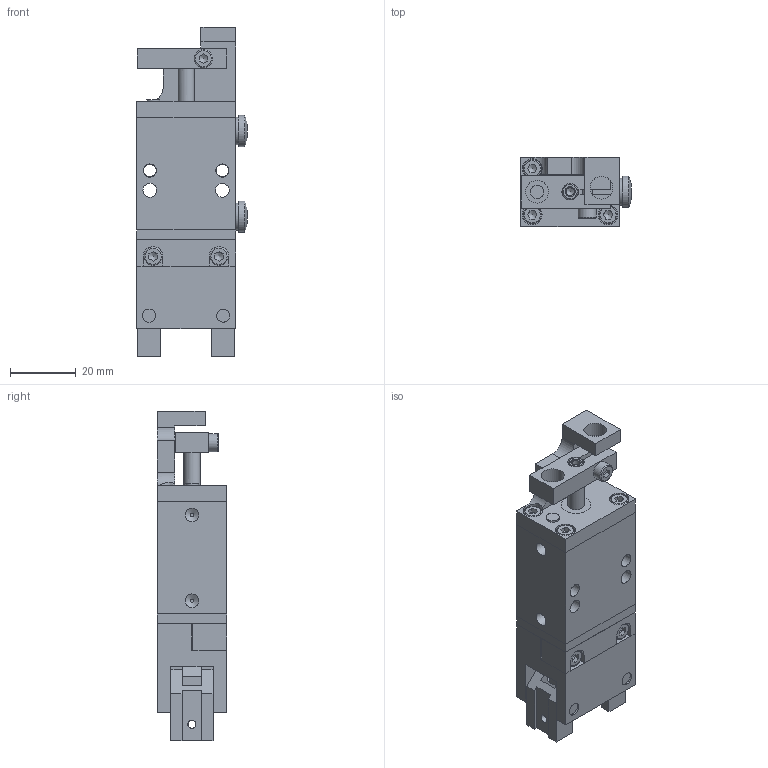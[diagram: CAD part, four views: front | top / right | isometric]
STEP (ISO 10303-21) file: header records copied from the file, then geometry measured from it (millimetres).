
FILE_DESCRIPTION((''),'2;1');
FILE_NAME('C:\Test\stp\3000004-1.stp','2006-04-11T12:58:19',('is'),(''),'Autodesk Inventor 10','Autodesk Inventor 10','');
FILE_SCHEMA(('AUTOMOTIVE_DESIGN { 1 0 10303 214 1 1 1 1 }'));
Length unit declared in the file: millimetre
Products named in the file (4): 3000004-1; 3000007-a; 3000007-b; 3000006-1
Assembly tree (3 placements, depth 2):
  3000004-1
    3000007-a
    3000007-b
    3000006-1
Bounding box: 33.61 x 21.06 x 100 mm (x, y, z)
Volume: 41943.1 mm3; surface area: 25475.8 mm2
Topology: 3 solids, 21 shells, 562 faces, 1382 edges, 887 vertices
Faces by surface type: plane 302, bspline 110, cylinder 85, cone 46, torus 17, sphere 2
Full cylindrical faces by diameter (mm): 2.95 x1, 3 x13, 4 x1, 5 x6, 5.2 x1, 5.5 x6, 5.7 x1, 6 x4, 7 x4, 7.1 x2, 8.3 x2, 8.75 x2, 9 x1, 9.5 x2, 9.6 x2, 12 x4, 15 x3, 17.6 x1
Entity records: 23016 total; most frequent: CARTESIAN_POINT 11149, DIRECTION 2376, ORIENTED_EDGE 2190, EDGE_CURVE 1095, AXIS2_PLACEMENT_3D 898, EDGE_LOOP 871, VERTEX_POINT 794, VECTOR 580
